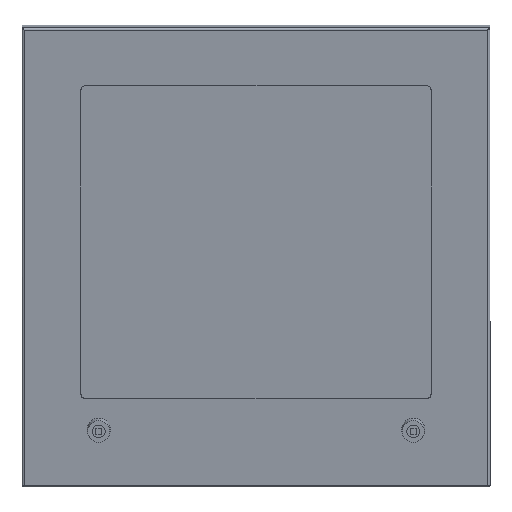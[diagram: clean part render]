
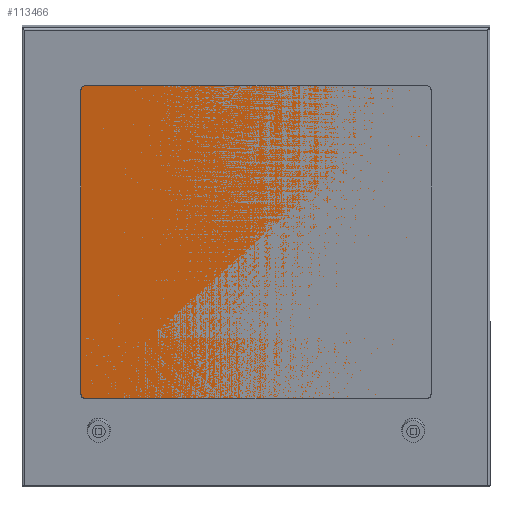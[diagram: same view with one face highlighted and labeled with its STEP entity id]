
A CAD part, left-side view. The second image highlights one B-rep face of the part: STEP entity #113466.
In plain terms, the highlighted planar face has unit normal (-0.983, 0, -0.181) as drawn and (0, 0, 1) by its records, which use the part's own axes.
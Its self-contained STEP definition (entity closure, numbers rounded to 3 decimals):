
#113171=CARTESIAN_POINT(' ',(-207.,227.5,0.));
#113176=DIRECTION(' ',(0.,-1.,0.));
#113181=VECTOR(' ',#113176,1.);
#113186=LINE('',#113171,#113181);
#113191=CARTESIAN_POINT(' ',(-207.,227.5,0.));
#113192=VERTEX_POINT(' ',#113191);
#113196=CARTESIAN_POINT(' ',(-207.,-227.5,0.));
#113197=VERTEX_POINT(' ',#113196);
#113201=EDGE_CURVE(' ',#113192,#113197,#113186,.T.);
#113326=DIRECTION(' ',(-0.,0.,1.));
#113331=CARTESIAN_POINT(' ',(-207.,-227.5,0.));
#113336=DIRECTION(' ',(1.,0.,0.));
#113341=AXIS2_PLACEMENT_3D(' ',#113331,#113326,#113336);
#113346=PLANE('NONE',#113341);
#113351=ORIENTED_EDGE(' ',*,*,#113201,.T.);
#113356=CARTESIAN_POINT(' ',(-207.,-227.5,0.));
#113361=DIRECTION(' ',(1.,0.,0.));
#113366=VECTOR(' ',#113361,1.);
#113371=LINE('',#113356,#113366);
#113376=CARTESIAN_POINT(' ',(207.,-227.5,0.));
#113377=VERTEX_POINT(' ',#113376);
#113381=EDGE_CURVE(' ',#113197,#113377,#113371,.T.);
#113386=ORIENTED_EDGE(' ',*,*,#113381,.T.);
#113391=CARTESIAN_POINT(' ',(207.,-227.5,0.));
#113396=DIRECTION(' ',(0.,1.,0.));
#113401=VECTOR(' ',#113396,1.);
#113406=LINE('',#113391,#113401);
#113411=CARTESIAN_POINT(' ',(207.,227.5,0.));
#113412=VERTEX_POINT(' ',#113411);
#113416=EDGE_CURVE(' ',#113377,#113412,#113406,.T.);
#113421=ORIENTED_EDGE(' ',*,*,#113416,.T.);
#113426=CARTESIAN_POINT(' ',(207.,227.5,0.));
#113431=DIRECTION(' ',(-1.,0.,0.));
#113436=VECTOR(' ',#113431,1.);
#113441=LINE('',#113426,#113436);
#113446=EDGE_CURVE(' ',#113412,#113192,#113441,.T.);
#113451=ORIENTED_EDGE(' ',*,*,#113446,.T.);
#113456=EDGE_LOOP(' ',(#113351,#113386,#113421,#113451));
#113461=FACE_OUTER_BOUND(' ',#113456,.T.);
#113466=ADVANCED_FACE('NONE',(#113461),#113346,.T.);
